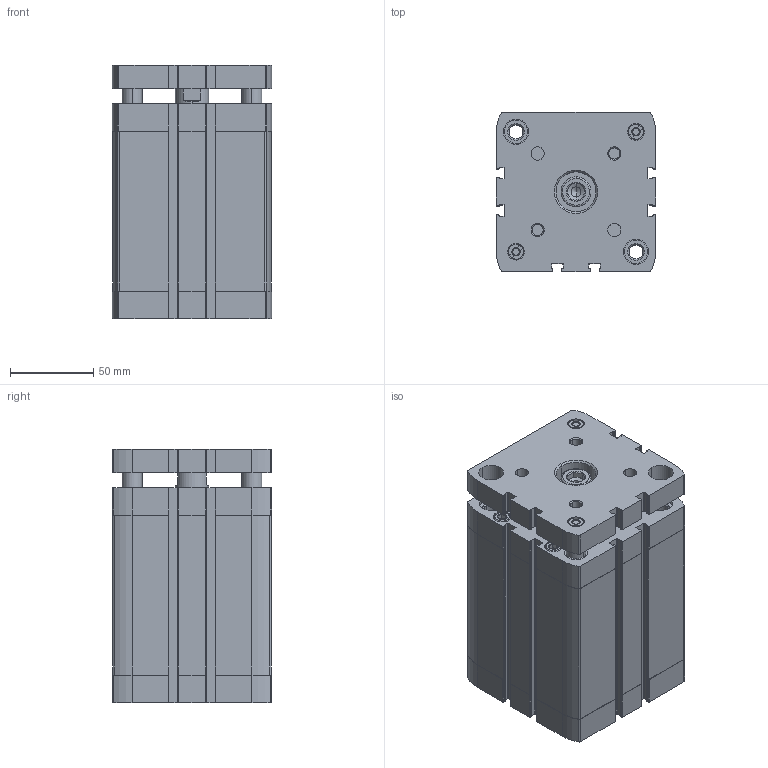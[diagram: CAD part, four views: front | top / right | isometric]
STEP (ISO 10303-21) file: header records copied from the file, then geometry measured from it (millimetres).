
FILE_DESCRIPTION (( 'STEP AP203' ), '1' );
FILE_NAME ('CCNG80-75.STEP', '2017-04-20T17:01:27', ( '' ), ( '' ), 'SwSTEP 2.0', 'SolidWorks 2016', '' );
FILE_SCHEMA (( 'CONFIG_CONTROL_DESIGN' ));
Length unit declared in the file: millimetre
Products named in the file (3): CCNG80-75; CCNG-80-75---(Z); CCNG-80-75--(KS)
Assembly tree (2 placements, depth 2):
  CCNG80-75
    CCNG-80-75---(Z)
    CCNG-80-75--(KS)
Bounding box: 95.5 x 95.5 x 151.9 mm (x, y, z)
Volume: 857049.6 mm3; surface area: 190952.7 mm2
Topology: 2 solids, 4 shells, 749 faces, 1956 edges, 1253 vertices
Faces by surface type: plane 319, cylinder 280, cone 144, bspline 6
Entity records: 23885 total; most frequent: CARTESIAN_POINT 4729, DIRECTION 4114, ORIENTED_EDGE 3876, EDGE_CURVE 1938, AXIS2_PLACEMENT_3D 1522, VERTEX_POINT 1253, LINE 1070, VECTOR 1070
